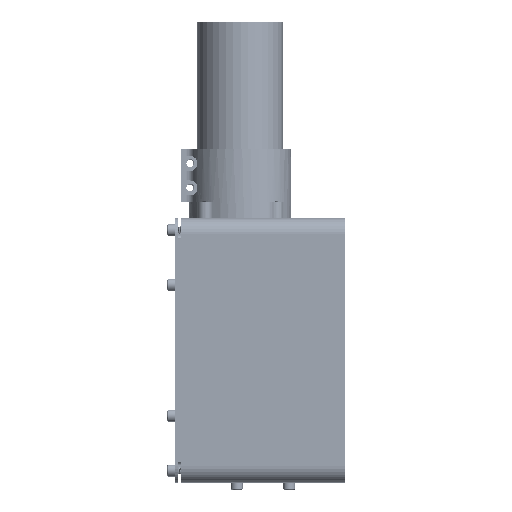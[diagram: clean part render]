
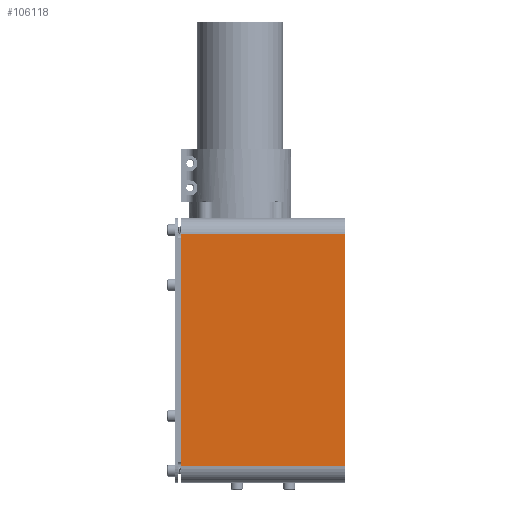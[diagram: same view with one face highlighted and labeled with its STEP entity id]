
A CAD part, left-side view. The second image highlights one B-rep face of the part: STEP entity #106118.
In plain terms, the highlighted planar face has unit normal (-1, 0, 0).
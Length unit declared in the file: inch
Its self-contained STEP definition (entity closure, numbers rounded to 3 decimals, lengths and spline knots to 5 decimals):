
#6158 = CARTESIAN_POINT ( 'NONE',  ( -3.925, 0.15, -1.775 ) ) ;
#6331 = DIRECTION ( 'NONE',  ( 1., 0., 0. ) ) ;
#7344 = EDGE_CURVE ( 'NONE', #116994, #10521, #20424, .T. ) ;
#10521 = VERTEX_POINT ( 'NONE', #19911 ) ;
#17086 = DIRECTION ( 'NONE',  ( 0., 0., -1. ) ) ;
#19911 = CARTESIAN_POINT ( 'NONE',  ( -3.925, 0., -1.775 ) ) ;
#20424 = LINE ( 'NONE', #6158, #91244 ) ;
#34921 = LINE ( 'NONE', #127961, #76975 ) ;
#41361 = EDGE_CURVE ( 'NONE', #95236, #53747, #124146, .T. ) ;
#49629 = FACE_OUTER_BOUND ( 'NONE', #108826, .T. ) ;
#53029 = DIRECTION ( 'NONE',  ( 0., 0., 1. ) ) ;
#53747 = VERTEX_POINT ( 'NONE', #105922 ) ;
#68350 = CARTESIAN_POINT ( 'NONE',  ( -3.925, 2.5, -1.775 ) ) ;
#76975 = VECTOR ( 'NONE', #53029, 39.37008 ) ;
#80243 = ORIENTED_EDGE ( 'NONE', *, *, #112193, .T. ) ;
#81103 = CARTESIAN_POINT ( 'NONE',  ( -3.925, 0.15, -2.025 ) ) ;
#81567 = PLANE ( 'NONE',  #99851 ) ;
#82787 = DIRECTION ( 'NONE',  ( 0., -1., 0. ) ) ;
#88179 = ORIENTED_EDGE ( 'NONE', *, *, #41361, .T. ) ;
#91244 = VECTOR ( 'NONE', #82787, 39.37008 ) ;
#91976 = EDGE_CURVE ( 'NONE', #53747, #116994, #123347, .T. ) ;
#95236 = VERTEX_POINT ( 'NONE', #125639 ) ;
#97599 = DIRECTION ( 'NONE',  ( 0., 0., -1. ) ) ;
#99851 = AXIS2_PLACEMENT_3D ( 'NONE', #81103, #6331, #17086 ) ;
#104832 = CARTESIAN_POINT ( 'NONE',  ( -3.925, 0.15, 1.775 ) ) ;
#105922 = CARTESIAN_POINT ( 'NONE',  ( -3.925, 2.5, 1.775 ) ) ;
#106118 = ADVANCED_FACE ( 'NONE', ( #49629 ), #81567, .F. ) ;
#108826 = EDGE_LOOP ( 'NONE', ( #80243, #88179, #108863, #127021 ) ) ;
#108863 = ORIENTED_EDGE ( 'NONE', *, *, #91976, .T. ) ;
#109805 = VECTOR ( 'NONE', #97599, 39.37008 ) ;
#112193 = EDGE_CURVE ( 'NONE', #10521, #95236, #34921, .T. ) ;
#116994 = VERTEX_POINT ( 'NONE', #68350 ) ;
#117424 = VECTOR ( 'NONE', #136879, 39.37008 ) ;
#123347 = LINE ( 'NONE', #130999, #109805 ) ;
#124146 = LINE ( 'NONE', #104832, #117424 ) ;
#125639 = CARTESIAN_POINT ( 'NONE',  ( -3.925, 0., 1.775 ) ) ;
#127021 = ORIENTED_EDGE ( 'NONE', *, *, #7344, .T. ) ;
#127961 = CARTESIAN_POINT ( 'NONE',  ( -3.925, 0., -2.025 ) ) ;
#130999 = CARTESIAN_POINT ( 'NONE',  ( -3.925, 2.5, 2.025 ) ) ;
#136879 = DIRECTION ( 'NONE',  ( 0., 1., 0. ) ) ;
